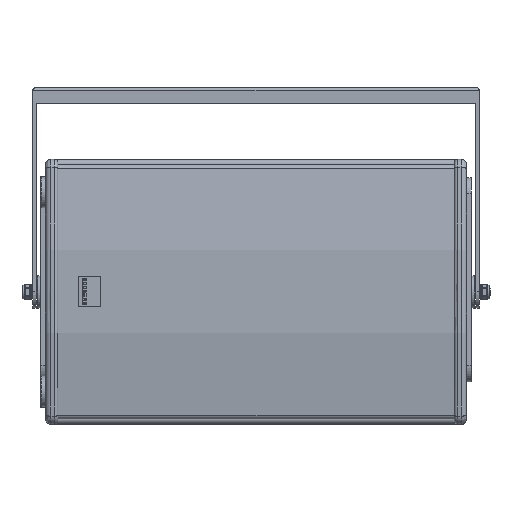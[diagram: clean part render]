
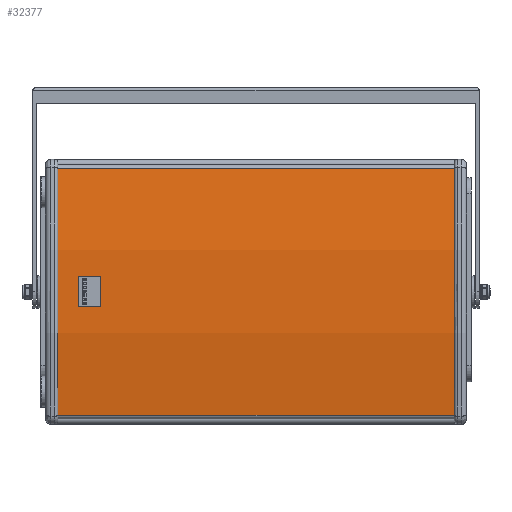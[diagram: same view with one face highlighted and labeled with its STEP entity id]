
A CAD part, top view. The second image highlights one B-rep face of the part: STEP entity #32377.
In plain terms, the highlighted cylindrical face has radius 842.369 mm (diameter 1684.74 mm), a partial arc.
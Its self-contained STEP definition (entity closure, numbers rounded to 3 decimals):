
#18506 = CARTESIAN_POINT ( 'NONE',  ( 17.632, -92.743, -7.183 ) ) ;
#18507 = DIRECTION ( 'NONE',  ( 0., 0., -1. ) ) ;
#18508 = DIRECTION ( 'NONE',  ( 1., 0., 0. ) ) ;
#18509 = CARTESIAN_POINT ( 'NONE',  ( 17.632, 735.967, -158.263 ) ) ;
#18510 = AXIS2_PLACEMENT_3D ( 'NONE', #18509, #18508, #18507 ) ;
#18511 = CIRCLE ( 'NONE', #18510, 842.369 ) ;
#18512 = DIRECTION ( 'NONE',  ( 0., 0., -1. ) ) ;
#18513 = DIRECTION ( 'NONE',  ( 1., 0., 0. ) ) ;
#18514 = CARTESIAN_POINT ( 'NONE',  ( 17.632, 735.967, -158.263 ) ) ;
#18515 = AXIS2_PLACEMENT_3D ( 'NONE', #18514, #18513, #18512 ) ;
#18516 = CYLINDRICAL_SURFACE ( 'NONE', #18515, 842.369 ) ;
#18517 = FACE_OUTER_BOUND ( 'NONE', #32375, .T. ) ;
#18556 = CARTESIAN_POINT ( 'NONE',  ( 502.632, -92.743, -7.183 ) ) ;
#18557 = DIRECTION ( 'NONE',  ( 0., 0., -1. ) ) ;
#18558 = DIRECTION ( 'NONE',  ( 1., 0., 0. ) ) ;
#18559 = CARTESIAN_POINT ( 'NONE',  ( 502.632, 735.967, -158.263 ) ) ;
#18560 = AXIS2_PLACEMENT_3D ( 'NONE', #18559, #18558, #18557 ) ;
#18561 = CIRCLE ( 'NONE', #18560, 842.369 ) ;
#18562 = CARTESIAN_POINT ( 'NONE',  ( 502.632, -92.801, -309.026 ) ) ;
#18563 = DIRECTION ( 'NONE',  ( -1., 0., 0. ) ) ;
#18564 = VECTOR ( 'NONE', #18563, 1000. ) ;
#18565 = CARTESIAN_POINT ( 'NONE',  ( 17.632, -92.801, -309.026 ) ) ;
#18566 = LINE ( 'NONE', #18565, #18564 ) ;
#18567 = CARTESIAN_POINT ( 'NONE',  ( 17.632, -92.801, -309.026 ) ) ;
#18568 = DIRECTION ( 'NONE',  ( 1., 0., 0. ) ) ;
#18569 = VECTOR ( 'NONE', #18568, 1000. ) ;
#18570 = CARTESIAN_POINT ( 'NONE',  ( 17.632, -92.743, -7.183 ) ) ;
#18571 = LINE ( 'NONE', #18570, #18569 ) ;
#32375 = EDGE_LOOP ( 'NONE', ( #32378, #32382, #32385, #32388 ) ) ;
#32377 = ADVANCED_FACE ( 'NONE', ( #18517 ), #18516, .T. ) ;
#32378 = ORIENTED_EDGE ( 'NONE', *, *, #32379, .T. ) ;
#32379 = EDGE_CURVE ( 'NONE', #32380, #32381, #18511, .T. ) ;
#32380 = VERTEX_POINT ( 'NONE', #18506 ) ;
#32381 = VERTEX_POINT ( 'NONE', #18567 ) ;
#32382 = ORIENTED_EDGE ( 'NONE', *, *, #32383, .F. ) ;
#32383 = EDGE_CURVE ( 'NONE', #32384, #32381, #18566, .T. ) ;
#32384 = VERTEX_POINT ( 'NONE', #18562 ) ;
#32385 = ORIENTED_EDGE ( 'NONE', *, *, #32386, .F. ) ;
#32386 = EDGE_CURVE ( 'NONE', #32387, #32384, #18561, .T. ) ;
#32387 = VERTEX_POINT ( 'NONE', #18556 ) ;
#32388 = ORIENTED_EDGE ( 'NONE', *, *, #32443, .F. ) ;
#32443 = EDGE_CURVE ( 'NONE', #32380, #32387, #18571, .T. ) ;
